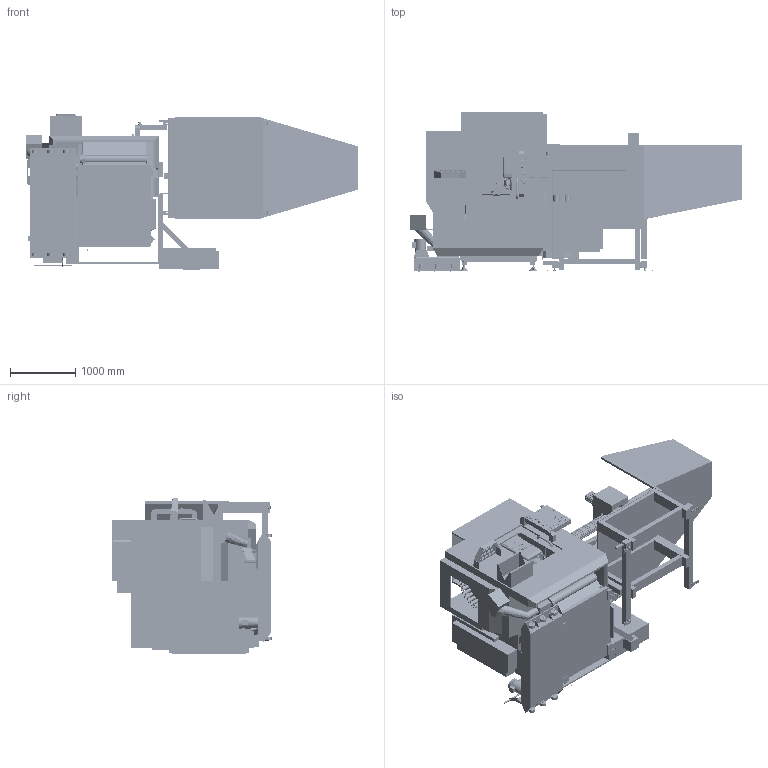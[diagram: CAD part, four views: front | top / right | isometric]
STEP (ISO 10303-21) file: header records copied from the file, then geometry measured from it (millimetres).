
FILE_DESCRIPTION (( 'STEP AP203' ), '1' );
FILE_NAME ('UMC 400 + APL_2_2025.STEP', '2025-02-20T23:18:07', ( '' ), ( '' ), 'SwSTEP 2.0', 'SolidWorks 2023', '' );
FILE_SCHEMA (( 'CONFIG_CONTROL_DESIGN' ));
Products named in the file (24): UMC 400+ APL- Enclosure; UMC 400 + APL- Working Control Pendant; UMC 400 + APL- Clamping Legs; UMC 400 + APL - Chip Chute; UMC 400 + APL - 30 +1 Tool Changer Assembly; UMC 400+ APL- Table AV Axis; UMC 400 + APL- Z Axis and Spindle; UMC 400+ APL- APL AW-AU Junction Box; UMC 400 + APL- Tool Changer Arm Up; UMC 400+ APL- AW-AU Axis Beam; UMC 400 + APL- Trunnion; UMC 400 + APL- Leveling Pads; UMC 400 + APL- 45 Gallon Coolant Tank; UMC 400 + APL- Y Axis; UMC 400 + APL_2_2025; UMC 400 + APL- X  Axis; UMC 400 + APL- 230 mm Platter; UMC 400+ APL-Anchor Pattern; UMC 400+ APL- Auto Window; UMC 400+ APL-  Main Body; UMC 400 + APL- Base Casting; UMC 400+ APL- Door; UMC 400 + APL- Wips Probe; UMC 400 + APL- Tool Changer Arm Down
Assembly tree (23 placements, depth 2):
  UMC 400 + APL_2_2025
    UMC 400 + APL- Base Casting
    UMC 400 + APL- Leveling Pads
    UMC 400+ APL-Anchor Pattern
    UMC 400 + APL- Trunnion
    UMC 400 + APL- 230 mm Platter
    UMC 400 + APL- Wips Probe
    UMC 400 + APL- X  Axis
    UMC 400 + APL- Y Axis
    UMC 400 + APL- Z Axis and Spindle
    UMC 400 + APL - 30 +1 Tool Changer Assembly
    UMC 400 + APL- Tool Changer Arm Up
    UMC 400 + APL- Tool Changer Arm Down
    UMC 400+ APL- Enclosure
    UMC 400+ APL- Door
    UMC 400+ APL- Auto Window
    UMC 400 + APL- Working Control Pendant
    UMC 400 + APL - Chip Chute
    UMC 400 + APL- 45 Gallon Coolant Tank
    UMC 400+ APL-  Main Body
    UMC 400+ APL- Table AV Axis
    UMC 400+ APL- APL AW-AU Junction Box
    UMC 400+ APL- AW-AU Axis Beam
    UMC 400 + APL- Clamping Legs
Bounding box: 5070 x 2428.4 x 2394.21 mm (x, y, z)
Volume: 2726558753.7 mm3; surface area: 111864516.7 mm2
Topology: 60 solids, 76 shells, 17749 faces, 46687 edges, 29563 vertices
Faces by surface type: plane 9183, cylinder 4842, bspline 1777, cone 958, torus 729, sphere 260
Entity records: 653915 total; most frequent: CARTESIAN_POINT 232060, ORIENTED_EDGE 92650, DIRECTION 81169, EDGE_CURVE 46325, VERTEX_POINT 29557, AXIS2_PLACEMENT_3D 28126, LINE 24917, VECTOR 24917
